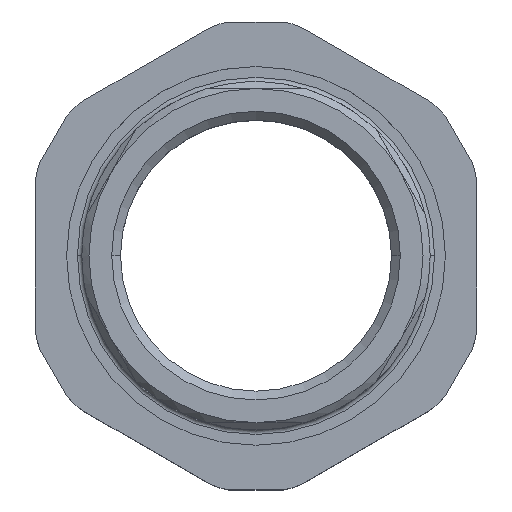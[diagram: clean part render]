
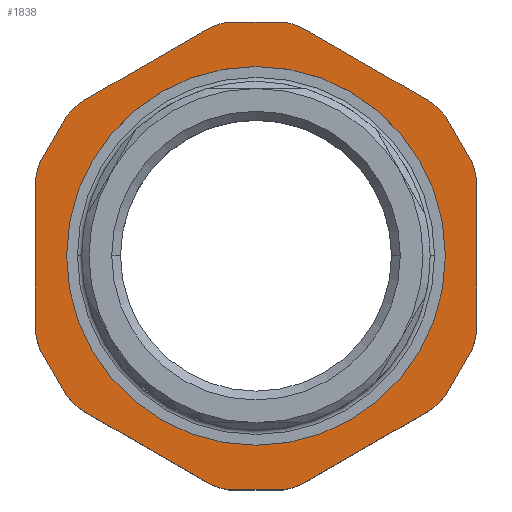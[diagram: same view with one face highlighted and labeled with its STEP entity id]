
A CAD part, top view. The second image highlights one B-rep face of the part: STEP entity #1838.
In plain terms, the highlighted planar face has unit normal (0, 0, 1).
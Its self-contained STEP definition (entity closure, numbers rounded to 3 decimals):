
#1259=CARTESIAN_POINT('',(0.,0.,6.4));
#1260=DIRECTION('',(0.,0.,-1.));
#1261=DIRECTION('',(0.,-1.,0.));
#1262=AXIS2_PLACEMENT_3D('',#1259,#1260,#1261);
#1264=CARTESIAN_POINT('',(0.,0.,6.4));
#1265=DIRECTION('',(0.,0.,-1.));
#1266=DIRECTION('',(0.,1.,0.));
#1267=AXIS2_PLACEMENT_3D('',#1264,#1265,#1266);
#1269=CARTESIAN_POINT('',(-18.,7.964,6.4));
#1270=DIRECTION('',(0.,0.,1.));
#1271=DIRECTION('',(-0.928,0.372,0.));
#1272=AXIS2_PLACEMENT_3D('',#1269,#1270,#1271);
#1274=DIRECTION('',(0.5,0.866,0.));
#1275=VECTOR('',#1274,6.188);
#1276=CARTESIAN_POINT('',(-24.497,10.571,6.4));
#1277=LINE('',#1276,#1275);
#1278=CARTESIAN_POINT('',(-15.897,11.606,6.4));
#1279=DIRECTION('',(0.,0.,1.));
#1280=DIRECTION('',(-0.5,0.866,0.));
#1281=AXIS2_PLACEMENT_3D('',#1278,#1279,#1280);
#1283=DIRECTION('',(-0.866,-0.5,0.));
#1284=VECTOR('',#1283,15.928);
#1285=CARTESIAN_POINT('',(-5.603,25.633,6.4));
#1286=LINE('',#1285,#1284);
#1287=CARTESIAN_POINT('',(-2.103,19.571,6.4));
#1288=DIRECTION('',(0.,0.,1.));
#1289=DIRECTION('',(-0.142,0.99,0.));
#1290=AXIS2_PLACEMENT_3D('',#1287,#1288,#1289);
#1292=DIRECTION('',(-1.,0.,0.));
#1293=VECTOR('',#1292,6.188);
#1294=CARTESIAN_POINT('',(3.094,26.5,6.4));
#1295=LINE('',#1294,#1293);
#1296=CARTESIAN_POINT('',(2.103,19.571,6.4));
#1297=DIRECTION('',(0.,0.,1.));
#1298=DIRECTION('',(0.5,0.866,0.));
#1299=AXIS2_PLACEMENT_3D('',#1296,#1297,#1298);
#1301=DIRECTION('',(0.866,-0.5,0.));
#1302=VECTOR('',#1301,15.928);
#1303=CARTESIAN_POINT('',(5.603,25.633,6.4));
#1304=LINE('',#1303,#1302);
#1305=CARTESIAN_POINT('',(15.897,11.606,6.4));
#1306=DIRECTION('',(0.,0.,1.));
#1307=DIRECTION('',(0.787,0.618,0.));
#1308=AXIS2_PLACEMENT_3D('',#1305,#1306,#1307);
#1310=DIRECTION('',(-0.5,0.866,0.));
#1311=VECTOR('',#1310,6.188);
#1312=CARTESIAN_POINT('',(24.497,10.571,6.4));
#1313=LINE('',#1312,#1311);
#1314=CARTESIAN_POINT('',(18.,7.964,6.4));
#1315=DIRECTION('',(0.,0.,1.));
#1316=DIRECTION('',(1.,0.,0.));
#1317=AXIS2_PLACEMENT_3D('',#1314,#1315,#1316);
#1319=DIRECTION('',(0.,1.,0.));
#1320=VECTOR('',#1319,15.928);
#1321=CARTESIAN_POINT('',(25.,-7.964,6.4));
#1322=LINE('',#1321,#1320);
#1323=CARTESIAN_POINT('',(18.,-7.964,6.4));
#1324=DIRECTION('',(0.,0.,1.));
#1325=DIRECTION('',(0.928,-0.372,0.));
#1326=AXIS2_PLACEMENT_3D('',#1323,#1324,#1325);
#1328=DIRECTION('',(-0.5,-0.866,0.));
#1329=VECTOR('',#1328,6.188);
#1330=CARTESIAN_POINT('',(24.497,-10.571,6.4));
#1331=LINE('',#1330,#1329);
#1332=CARTESIAN_POINT('',(15.897,-11.606,6.4));
#1333=DIRECTION('',(0.,0.,1.));
#1334=DIRECTION('',(0.5,-0.866,0.));
#1335=AXIS2_PLACEMENT_3D('',#1332,#1333,#1334);
#1337=DIRECTION('',(0.866,0.5,0.));
#1338=VECTOR('',#1337,15.928);
#1339=CARTESIAN_POINT('',(5.603,-25.633,6.4));
#1340=LINE('',#1339,#1338);
#1341=CARTESIAN_POINT('',(2.103,-19.571,6.4));
#1342=DIRECTION('',(0.,0.,1.));
#1343=DIRECTION('',(0.142,-0.99,0.));
#1344=AXIS2_PLACEMENT_3D('',#1341,#1342,#1343);
#1346=DIRECTION('',(1.,0.,0.));
#1347=VECTOR('',#1346,6.188);
#1348=CARTESIAN_POINT('',(-3.094,-26.5,6.4));
#1349=LINE('',#1348,#1347);
#1350=CARTESIAN_POINT('',(-2.103,-19.571,6.4));
#1351=DIRECTION('',(0.,0.,1.));
#1352=DIRECTION('',(-0.5,-0.866,0.));
#1353=AXIS2_PLACEMENT_3D('',#1350,#1351,#1352);
#1355=DIRECTION('',(-0.866,0.5,0.));
#1356=VECTOR('',#1355,15.928);
#1357=CARTESIAN_POINT('',(-5.603,-25.633,6.4));
#1358=LINE('',#1357,#1356);
#1359=CARTESIAN_POINT('',(-15.897,-11.606,6.4));
#1360=DIRECTION('',(0.,0.,1.));
#1361=DIRECTION('',(-0.787,-0.618,0.));
#1362=AXIS2_PLACEMENT_3D('',#1359,#1360,#1361);
#1364=DIRECTION('',(0.5,-0.866,0.));
#1365=VECTOR('',#1364,6.188);
#1366=CARTESIAN_POINT('',(-24.497,-10.571,6.4));
#1367=LINE('',#1366,#1365);
#1368=CARTESIAN_POINT('',(-18.,-7.964,6.4));
#1369=DIRECTION('',(0.,0.,1.));
#1370=DIRECTION('',(-1.,0.,0.));
#1371=AXIS2_PLACEMENT_3D('',#1368,#1369,#1370);
#1373=DIRECTION('',(0.,-1.,0.));
#1374=VECTOR('',#1373,15.928);
#1375=CARTESIAN_POINT('',(-25.,7.964,6.4));
#1376=LINE('',#1375,#1374);
#1621=CARTESIAN_POINT('',(0.,-21.46,6.4));
#1622=CARTESIAN_POINT('',(0.,21.46,6.4));
#1623=VERTEX_POINT('',#1621);
#1624=VERTEX_POINT('',#1622);
#1629=CARTESIAN_POINT('',(-24.497,10.571,6.4));
#1630=CARTESIAN_POINT('',(-25.,7.964,6.4));
#1631=VERTEX_POINT('',#1629);
#1632=VERTEX_POINT('',#1630);
#1641=CARTESIAN_POINT('',(-25.,-7.964,6.4));
#1642=VERTEX_POINT('',#1641);
#1643=CARTESIAN_POINT('',(-24.497,-10.571,6.4));
#1644=VERTEX_POINT('',#1643);
#1645=CARTESIAN_POINT('',(-21.403,-15.929,6.4));
#1646=CARTESIAN_POINT('',(-19.397,-17.669,6.4));
#1647=VERTEX_POINT('',#1645);
#1648=VERTEX_POINT('',#1646);
#1657=CARTESIAN_POINT('',(-5.603,-25.633,6.4));
#1658=VERTEX_POINT('',#1657);
#1659=CARTESIAN_POINT('',(-3.094,-26.5,6.4));
#1660=VERTEX_POINT('',#1659);
#1661=CARTESIAN_POINT('',(3.094,-26.5,6.4));
#1662=CARTESIAN_POINT('',(5.603,-25.633,6.4));
#1663=VERTEX_POINT('',#1661);
#1664=VERTEX_POINT('',#1662);
#1673=CARTESIAN_POINT('',(19.397,-17.669,6.4));
#1674=VERTEX_POINT('',#1673);
#1675=CARTESIAN_POINT('',(21.403,-15.929,6.4));
#1676=VERTEX_POINT('',#1675);
#1677=CARTESIAN_POINT('',(24.497,-10.571,6.4));
#1678=CARTESIAN_POINT('',(25.,-7.964,6.4));
#1679=VERTEX_POINT('',#1677);
#1680=VERTEX_POINT('',#1678);
#1689=CARTESIAN_POINT('',(25.,7.964,6.4));
#1690=VERTEX_POINT('',#1689);
#1691=CARTESIAN_POINT('',(24.497,10.571,6.4));
#1692=VERTEX_POINT('',#1691);
#1693=CARTESIAN_POINT('',(21.403,15.929,6.4));
#1694=CARTESIAN_POINT('',(19.397,17.669,6.4));
#1695=VERTEX_POINT('',#1693);
#1696=VERTEX_POINT('',#1694);
#1705=CARTESIAN_POINT('',(5.603,25.633,6.4));
#1706=VERTEX_POINT('',#1705);
#1707=CARTESIAN_POINT('',(3.094,26.5,6.4));
#1708=VERTEX_POINT('',#1707);
#1709=CARTESIAN_POINT('',(-3.094,26.5,6.4));
#1710=CARTESIAN_POINT('',(-5.603,25.633,6.4));
#1711=VERTEX_POINT('',#1709);
#1712=VERTEX_POINT('',#1710);
#1721=CARTESIAN_POINT('',(-19.397,17.669,6.4));
#1722=VERTEX_POINT('',#1721);
#1723=CARTESIAN_POINT('',(-21.403,15.929,6.4));
#1724=VERTEX_POINT('',#1723);
#1779=CARTESIAN_POINT('',(0.,0.,6.4));
#1780=DIRECTION('',(0.,0.,1.));
#1781=DIRECTION('',(0.,-1.,0.));
#1782=AXIS2_PLACEMENT_3D('',#1779,#1780,#1781);
#1783=PLANE('',#1782);
#1785=ORIENTED_EDGE('',*,*,#1784,.F.);
#1787=ORIENTED_EDGE('',*,*,#1786,.T.);
#1789=ORIENTED_EDGE('',*,*,#1788,.F.);
#1791=ORIENTED_EDGE('',*,*,#1790,.F.);
#1793=ORIENTED_EDGE('',*,*,#1792,.F.);
#1795=ORIENTED_EDGE('',*,*,#1794,.F.);
#1797=ORIENTED_EDGE('',*,*,#1796,.F.);
#1799=ORIENTED_EDGE('',*,*,#1798,.T.);
#1801=ORIENTED_EDGE('',*,*,#1800,.F.);
#1803=ORIENTED_EDGE('',*,*,#1802,.F.);
#1805=ORIENTED_EDGE('',*,*,#1804,.F.);
#1807=ORIENTED_EDGE('',*,*,#1806,.F.);
#1809=ORIENTED_EDGE('',*,*,#1808,.F.);
#1811=ORIENTED_EDGE('',*,*,#1810,.T.);
#1813=ORIENTED_EDGE('',*,*,#1812,.F.);
#1815=ORIENTED_EDGE('',*,*,#1814,.F.);
#1817=ORIENTED_EDGE('',*,*,#1816,.F.);
#1819=ORIENTED_EDGE('',*,*,#1818,.F.);
#1821=ORIENTED_EDGE('',*,*,#1820,.F.);
#1823=ORIENTED_EDGE('',*,*,#1822,.T.);
#1825=ORIENTED_EDGE('',*,*,#1824,.F.);
#1827=ORIENTED_EDGE('',*,*,#1826,.F.);
#1829=ORIENTED_EDGE('',*,*,#1828,.F.);
#1831=ORIENTED_EDGE('',*,*,#1830,.F.);
#1832=EDGE_LOOP('',(#1785,#1787,#1789,#1791,#1793,#1795,#1797,#1799,#1801,#1803,
#1805,#1807,#1809,#1811,#1813,#1815,#1817,#1819,#1821,#1823,#1825,#1827,#1829,
#1831));
#1833=FACE_OUTER_BOUND('',#1832,.F.);
#1834=ORIENTED_EDGE('',*,*,#1759,.F.);
#1835=ORIENTED_EDGE('',*,*,#1773,.F.);
#1836=EDGE_LOOP('',(#1834,#1835));
#1837=FACE_BOUND('',#1836,.F.);
#1838=ADVANCED_FACE('',(#1833,#1837),#1783,.T.);
#1263=CIRCLE('',#1262,21.46);
#1268=CIRCLE('',#1267,21.46);
#1273=CIRCLE('',#1272,7.);
#1282=CIRCLE('',#1281,7.);
#1291=CIRCLE('',#1290,7.);
#1300=CIRCLE('',#1299,7.);
#1309=CIRCLE('',#1308,7.);
#1318=CIRCLE('',#1317,7.);
#1327=CIRCLE('',#1326,7.);
#1336=CIRCLE('',#1335,7.);
#1345=CIRCLE('',#1344,7.);
#1354=CIRCLE('',#1353,7.);
#1363=CIRCLE('',#1362,7.);
#1372=CIRCLE('',#1371,7.);
#1759=EDGE_CURVE('',#1623,#1624,#1263,.T.);
#1773=EDGE_CURVE('',#1624,#1623,#1268,.T.);
#1784=EDGE_CURVE('',#1631,#1632,#1273,.T.);
#1786=EDGE_CURVE('',#1631,#1724,#1277,.T.);
#1788=EDGE_CURVE('',#1722,#1724,#1282,.T.);
#1790=EDGE_CURVE('',#1712,#1722,#1286,.T.);
#1792=EDGE_CURVE('',#1711,#1712,#1291,.T.);
#1794=EDGE_CURVE('',#1708,#1711,#1295,.T.);
#1796=EDGE_CURVE('',#1706,#1708,#1300,.T.);
#1798=EDGE_CURVE('',#1706,#1696,#1304,.T.);
#1800=EDGE_CURVE('',#1695,#1696,#1309,.T.);
#1802=EDGE_CURVE('',#1692,#1695,#1313,.T.);
#1804=EDGE_CURVE('',#1690,#1692,#1318,.T.);
#1806=EDGE_CURVE('',#1680,#1690,#1322,.T.);
#1808=EDGE_CURVE('',#1679,#1680,#1327,.T.);
#1810=EDGE_CURVE('',#1679,#1676,#1331,.T.);
#1812=EDGE_CURVE('',#1674,#1676,#1336,.T.);
#1814=EDGE_CURVE('',#1664,#1674,#1340,.T.);
#1816=EDGE_CURVE('',#1663,#1664,#1345,.T.);
#1818=EDGE_CURVE('',#1660,#1663,#1349,.T.);
#1820=EDGE_CURVE('',#1658,#1660,#1354,.T.);
#1822=EDGE_CURVE('',#1658,#1648,#1358,.T.);
#1824=EDGE_CURVE('',#1647,#1648,#1363,.T.);
#1826=EDGE_CURVE('',#1644,#1647,#1367,.T.);
#1828=EDGE_CURVE('',#1642,#1644,#1372,.T.);
#1830=EDGE_CURVE('',#1632,#1642,#1376,.T.);
